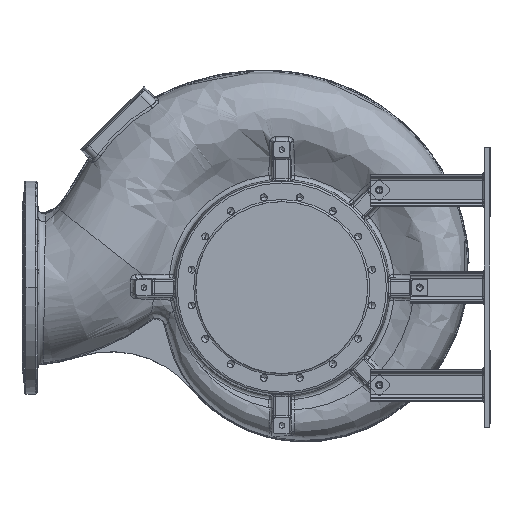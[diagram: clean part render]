
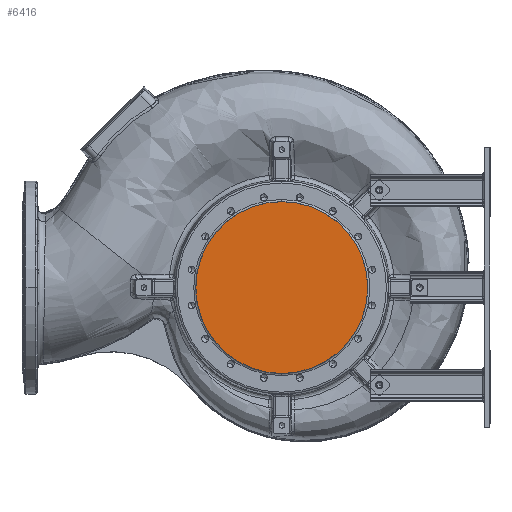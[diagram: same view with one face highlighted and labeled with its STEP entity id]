
A CAD part, left-side view. The second image highlights one B-rep face of the part: STEP entity #6416.
In plain terms, the highlighted planar face has unit normal (-1, 0, 0).
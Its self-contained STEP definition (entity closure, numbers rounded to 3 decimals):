
#173 = DIRECTION ( 'NONE',  ( 0., 0., 1. ) ) ;
#6416 = ADVANCED_FACE ( 'NONE', ( #122427 ), #59138, .T. ) ;
#15934 = DIRECTION ( 'NONE',  ( -1., 0., 0. ) ) ;
#16705 = CARTESIAN_POINT ( 'NONE',  ( -578., 0., -215. ) ) ;
#18064 = AXIS2_PLACEMENT_3D ( 'NONE', #87523, #15934, #99580 ) ;
#44941 = DIRECTION ( 'NONE',  ( 0., 0., 1. ) ) ;
#45443 = DIRECTION ( 'NONE',  ( -1., 0., 0. ) ) ;
#45623 = CARTESIAN_POINT ( 'NONE',  ( -578., 215., 0. ) ) ;
#56334 = ORIENTED_EDGE ( 'NONE', *, *, #99992, .T. ) ;
#59138 = PLANE ( 'NONE',  #150441 ) ;
#60132 = EDGE_CURVE ( 'NONE', #67967, #71671, #122321, .T. ) ;
#67967 = VERTEX_POINT ( 'NONE', #127733 ) ;
#71671 = VERTEX_POINT ( 'NONE', #16705 ) ;
#71750 = DIRECTION ( 'NONE',  ( -1., 0., 0. ) ) ;
#78020 = CIRCLE ( 'NONE', #91112, 215. ) ;
#82607 = EDGE_LOOP ( 'NONE', ( #56334, #83399 ) ) ;
#83399 = ORIENTED_EDGE ( 'NONE', *, *, #60132, .T. ) ;
#87523 = CARTESIAN_POINT ( 'NONE',  ( -578., 0., 0. ) ) ;
#91112 = AXIS2_PLACEMENT_3D ( 'NONE', #143744, #71750, #173 ) ;
#99580 = DIRECTION ( 'NONE',  ( 0., 0., 1. ) ) ;
#99992 = EDGE_CURVE ( 'NONE', #71671, #67967, #78020, .T. ) ;
#122321 = CIRCLE ( 'NONE', #18064, 215. ) ;
#122427 = FACE_OUTER_BOUND ( 'NONE', #82607, .T. ) ;
#127733 = CARTESIAN_POINT ( 'NONE',  ( -578., 0., 215. ) ) ;
#143744 = CARTESIAN_POINT ( 'NONE',  ( -578., 0., 0. ) ) ;
#150441 = AXIS2_PLACEMENT_3D ( 'NONE', #45623, #45443, #44941 ) ;
